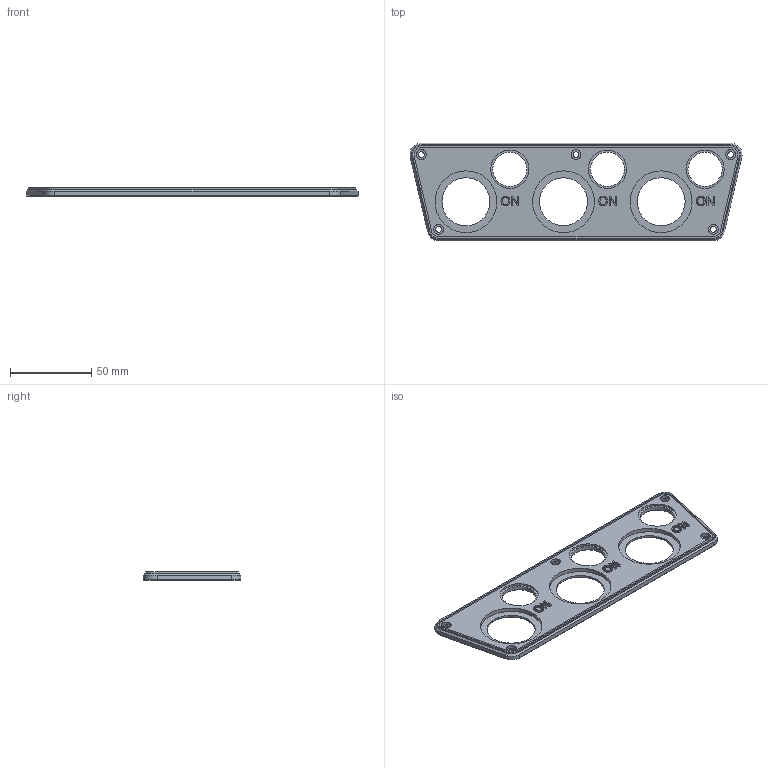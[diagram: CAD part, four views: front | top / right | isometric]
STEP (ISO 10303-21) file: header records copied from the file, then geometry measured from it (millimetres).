
FILE_DESCRIPTION(/* description */ (''),/* implementation_level */ '2;1');
FILE_NAME(/* name */ 'campster face plate power supply v4.step',/* time_stamp */ '2024-10-07T20:16:51+02:00',/* author */ (''),/* organization */ (''),/* preprocessor_version */ 'ST-DEVELOPER v20',/* originating_system */ 'Autodesk Translation Framework v13.20.0.188',/* authorisation */ '');
FILE_SCHEMA (('AUTOMOTIVE_DESIGN { 1 0 10303 214 3 1 1 }'));
Length unit declared in the file: millimetre
Products named in the file (1): campster face plate power supply
Bounding box: 204.08 x 60 x 5 mm (x, y, z)
Volume: 30129.5 mm3; surface area: 23060.7 mm2
Topology: 8 solids, 8 shells, 190 faces, 462 edges, 299 vertices
Faces by surface type: plane 77, bspline 60, cylinder 34, cone 19
Full cylindrical faces by diameter (mm): 3.5 x5, 6 x5, 21 x3, 23.5 x3, 29.5 x3, 38 x3
Entity records: 6197 total; most frequent: CARTESIAN_POINT 1972, ORIENTED_EDGE 924, DIRECTION 691, EDGE_CURVE 462, VERTEX_POINT 299, LINE 255, VECTOR 255, EDGE_LOOP 231
